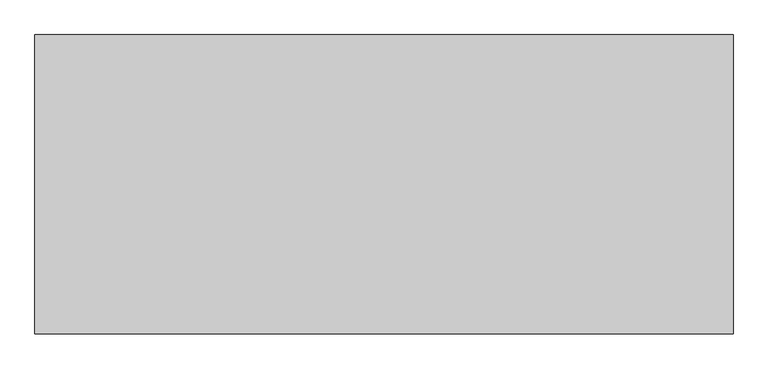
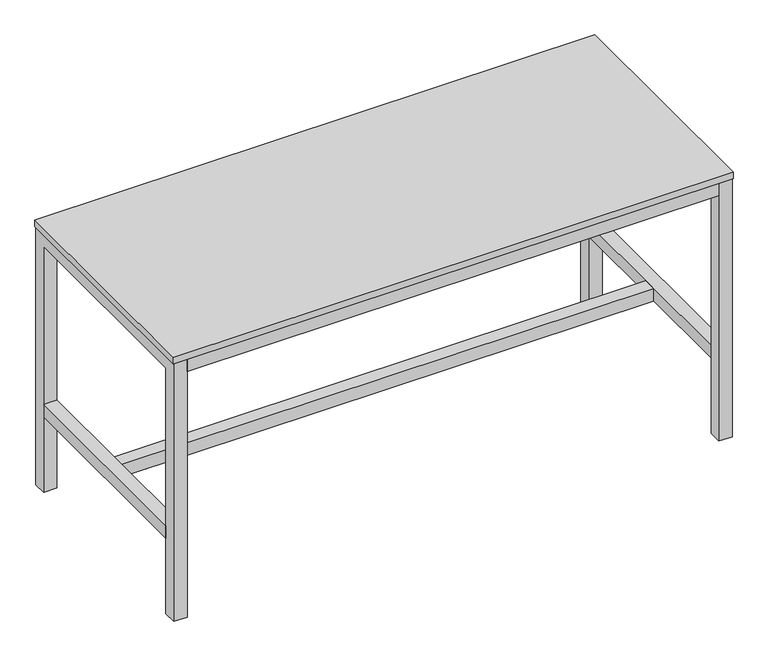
"""IFC4 building model written with IfcOpenShell, lengths in millimetres: furniture geometry, Tables without Castors : Tables without Castors."""

from ifc_helpers import new_model, si_unit, point, frame, frame_2d, origin, place, context, project, spatial, polyline, circle_curve, trimmed, segment, composite_curve, outline, extrude, faceted_brep, source, transform, mapped, element, save
from ifc_brep_helpers import plane_surface, cylinder_surface, advanced_brep


def furniture_dd5b71e2(model_context):
    return source(origin(), model_context, "Body", "SolidModel", [
        extrude(outline(composite_curve([segment(polyline([(-471.2500113, -397.5000094), (-471.2500113, -377.5000129)]), True, "CONTINUOUS"), segment(trimmed(circle_curve(frame_2d((-461.250004, -377.5000129)), 10.0000073), [point((-471.2500113, -377.5000129))], [point((-451.2499967, -377.5000129))], False, "CARTESIAN"), True, "CONTINUOUS"), segment(polyline([(-451.2499967, -377.5000129), (-451.2499967, -397.5000094), (-471.2500113, -397.5000094)]), True, "CONTINUOUS")], self_intersect=False), holes=[composite_curve([segment(trimmed(circle_curve(frame_2d((-461.250004, -377.5000129)), 3.0000178), [point((-461.250004, -380.5000308))], [point((-461.250004, -374.4999951))], True, "CARTESIAN"), True, "CONTINUOUS"), segment(trimmed(circle_curve(frame_2d((-461.250004, -377.5000129)), 3.0000178), [point((-461.250004, -374.4999951))], [point((-461.250004, -380.5000308))], True, "CARTESIAN"), True, "CONTINUOUS")], self_intersect=False)]), frame((0.0, 0.0, 1023.0000078), z_axis=(0.0, 0.0, 1.0), x_axis=(1.0, 0.0, 0.0)), (0.0, 0.0, 1.0), 2.0),
        extrude(outline(composite_curve([segment(polyline([(471.2500113, -397.5000094), (451.2499967, -397.5000094), (451.2499967, -377.5000129)]), True, "CONTINUOUS"), segment(trimmed(circle_curve(frame_2d((461.250004, -377.5000129)), 10.0000073), [point((451.2499967, -377.5000129))], [point((471.2500113, -377.5000129))], False, "CARTESIAN"), True, "CONTINUOUS"), segment(polyline([(471.2500113, -377.5000129), (471.2500113, -397.5000094)]), True, "CONTINUOUS")], self_intersect=False), holes=[composite_curve([segment(trimmed(circle_curve(frame_2d((461.250004, -377.5000129)), 3.0000178), [point((461.250004, -380.5000308))], [point((461.250004, -374.4999951))], True, "CARTESIAN"), True, "CONTINUOUS"), segment(trimmed(circle_curve(frame_2d((461.250004, -377.5000129)), 3.0000178), [point((461.250004, -374.4999951))], [point((461.250004, -380.5000308))], True, "CARTESIAN"), True, "CONTINUOUS")], self_intersect=False)]), frame((0.0, 0.0, 1023.0000078), z_axis=(0.0, 0.0, 1.0), x_axis=(1.0, 0.0, 0.0)), (0.0, 0.0, 1.0), 2.0),
        extrude(outline(composite_curve([segment(polyline([(-10.0000073, -397.5000094), (-10.0000073, -377.5000129)]), True, "CONTINUOUS"), segment(trimmed(circle_curve(frame_2d((0.0, -377.5000129)), 10.0000073), [point((-10.0000073, -377.5000129))], [point((10.0000073, -377.5000129))], False, "CARTESIAN"), True, "CONTINUOUS"), segment(polyline([(10.0000073, -377.5000129), (10.0000073, -397.5000094), (-10.0000073, -397.5000094)]), True, "CONTINUOUS")], self_intersect=False), holes=[composite_curve([segment(trimmed(circle_curve(frame_2d((0.0, -377.5000129)), 3.0000178), [point((0.0, -380.5000308))], [point((0.0, -374.4999951))], True, "CARTESIAN"), True, "CONTINUOUS"), segment(trimmed(circle_curve(frame_2d((0.0, -377.5000129)), 3.0000178), [point((0.0, -374.4999951))], [point((0.0, -380.5000308))], True, "CARTESIAN"), True, "CONTINUOUS")], self_intersect=False)]), frame((0.0, 0.0, 1023.0000078), z_axis=(0.0, 0.0, 1.0), x_axis=(1.0, 0.0, 0.0)), (0.0, 0.0, 1.0), 2.0),
        extrude(outline(composite_curve([segment(polyline([(-932.5000154, -397.5000094), (-932.5000154, -377.5000129)]), True, "CONTINUOUS"), segment(trimmed(circle_curve(frame_2d((-922.500008, -377.5000129)), 10.0000073), [point((-932.5000154, -377.5000129))], [point((-912.5000007, -377.5000129))], False, "CARTESIAN"), True, "CONTINUOUS"), segment(polyline([(-912.5000007, -377.5000129), (-912.5000007, -397.5000094), (-932.5000154, -397.5000094)]), True, "CONTINUOUS")], self_intersect=False), holes=[composite_curve([segment(trimmed(circle_curve(frame_2d((-922.500008, -377.5000129)), 3.0000178), [point((-922.500008, -380.5000308))], [point((-922.500008, -374.4999951))], True, "CARTESIAN"), True, "CONTINUOUS"), segment(trimmed(circle_curve(frame_2d((-922.500008, -377.5000129)), 3.0000178), [point((-922.500008, -374.4999951))], [point((-922.500008, -380.5000308))], True, "CARTESIAN"), True, "CONTINUOUS")], self_intersect=False)]), frame((0.0, 0.0, 1023.0000078), z_axis=(0.0, 0.0, 1.0), x_axis=(1.0, 0.0, 0.0)), (0.0, 0.0, 1.0), 2.0),
        extrude(outline(composite_curve([segment(polyline([(932.5000154, -397.5000094), (912.5000007, -397.5000094), (912.5000007, -377.5000129)]), True, "CONTINUOUS"), segment(trimmed(circle_curve(frame_2d((922.500008, -377.5000129)), 10.0000073), [point((912.5000007, -377.5000129))], [point((932.5000154, -377.5000129))], False, "CARTESIAN"), True, "CONTINUOUS"), segment(polyline([(932.5000154, -377.5000129), (932.5000154, -397.5000094)]), True, "CONTINUOUS")], self_intersect=False), holes=[composite_curve([segment(trimmed(circle_curve(frame_2d((922.500008, -377.5000129)), 3.0000178), [point((922.500008, -380.5000308))], [point((922.500008, -374.4999951))], True, "CARTESIAN"), True, "CONTINUOUS"), segment(trimmed(circle_curve(frame_2d((922.500008, -377.5000129)), 3.0000178), [point((922.500008, -374.4999951))], [point((922.500008, -380.5000308))], True, "CARTESIAN"), True, "CONTINUOUS")], self_intersect=False)]), frame((0.0, 0.0, 1023.0000078), z_axis=(0.0, 0.0, 1.0), x_axis=(1.0, 0.0, 0.0)), (0.0, 0.0, 1.0), 2.0),
        extrude(outline(polyline([(-447.5000115, 975.0000074), (-447.5000115, 1025.0000078), (-397.5000094, 1025.0000078), (-397.5000094, 975.0000074), (-447.5000115, 975.0000074)]), holes=[polyline([(-445.5000115, 977.0000307), (-399.50001, 977.0000307), (-399.50001, 1022.9999846), (-445.5000115, 1022.9999846), (-445.5000115, 977.0000307)])]), frame((-997.500008, 0.0, 0.0), z_axis=(1.0, 0.0, 0.0), x_axis=(0.0, 1.0, 0.0)), (0.0, 0.0, 1.0), 1995.000016),
        extrude(outline(composite_curve([segment(polyline([(997.5000059, -10.0000073), (977.5000094, -10.0000073)]), True, "CONTINUOUS"), segment(trimmed(circle_curve(frame_2d((977.5000094, 0.0)), 10.0000073), [point((977.5000094, -10.0000073))], [point((977.5000094, 10.0000073))], False, "CARTESIAN"), True, "CONTINUOUS"), segment(polyline([(977.5000094, 10.0000073), (997.5000059, 10.0000073), (997.5000059, -10.0000073)]), True, "CONTINUOUS")], self_intersect=False), holes=[composite_curve([segment(trimmed(circle_curve(frame_2d((977.5000094, 0.0)), 3.0000178), [point((980.5000272, 0.0))], [point((974.4999916, 0.0))], True, "CARTESIAN"), True, "CONTINUOUS"), segment(trimmed(circle_curve(frame_2d((977.5000094, 0.0)), 3.0000178), [point((974.4999916, 0.0))], [point((980.5000272, 0.0))], True, "CARTESIAN"), True, "CONTINUOUS")], self_intersect=False)]), frame((0.0, 0.0, 1023.0000078), z_axis=(0.0, 0.0, 1.0), x_axis=(1.0, 0.0, 0.0)), (0.0, 0.0, 1.0), 2.0),
        extrude(outline(composite_curve([segment(polyline([(997.5000059, -332.4999735), (977.5000094, -332.4999735)]), True, "CONTINUOUS"), segment(trimmed(circle_curve(frame_2d((977.5000094, -322.4999661)), 10.0000073), [point((977.5000094, -332.4999735))], [point((977.5000094, -312.4999588))], False, "CARTESIAN"), True, "CONTINUOUS"), segment(polyline([(977.5000094, -312.4999588), (997.5000059, -312.4999588), (997.5000059, -332.4999735)]), True, "CONTINUOUS")], self_intersect=False), holes=[composite_curve([segment(trimmed(circle_curve(frame_2d((977.5000094, -322.4999661)), 3.0000178), [point((980.5000272, -322.4999661))], [point((974.4999916, -322.4999661))], True, "CARTESIAN"), True, "CONTINUOUS"), segment(trimmed(circle_curve(frame_2d((977.5000094, -322.4999661)), 3.0000178), [point((974.4999916, -322.4999661))], [point((980.5000272, -322.4999661))], True, "CARTESIAN"), True, "CONTINUOUS")], self_intersect=False)]), frame((0.0, 0.0, 1023.0000078), z_axis=(0.0, 0.0, 1.0), x_axis=(1.0, 0.0, 0.0)), (0.0, 0.0, 1.0), 2.0),
        extrude(outline(composite_curve([segment(polyline([(997.5000059, 332.4999735), (997.5000059, 312.4999588), (977.5000094, 312.4999588)]), True, "CONTINUOUS"), segment(trimmed(circle_curve(frame_2d((977.5000094, 322.4999661)), 10.0000073), [point((977.5000094, 312.4999588))], [point((977.5000094, 332.4999735))], False, "CARTESIAN"), True, "CONTINUOUS"), segment(polyline([(977.5000094, 332.4999735), (997.5000059, 332.4999735)]), True, "CONTINUOUS")], self_intersect=False), holes=[composite_curve([segment(trimmed(circle_curve(frame_2d((977.5000094, 322.4999661)), 3.0000178), [point((980.5000272, 322.4999661))], [point((974.4999916, 322.4999661))], True, "CARTESIAN"), True, "CONTINUOUS"), segment(trimmed(circle_curve(frame_2d((977.5000094, 322.4999661)), 3.0000178), [point((974.4999916, 322.4999661))], [point((980.5000272, 322.4999661))], True, "CARTESIAN"), True, "CONTINUOUS")], self_intersect=False)]), frame((0.0, 0.0, 1023.0000078), z_axis=(0.0, 0.0, 1.0), x_axis=(1.0, 0.0, 0.0)), (0.0, 0.0, 1.0), 2.0),
        advanced_brep(
        [(1018.5000081, 422.5000023, 5.0000003), (1026.5000058, 422.5000023, 5.0000003), (1026.5000058, 422.5000023, 29.9999993), (1018.5000081, 422.5000023, 29.9999993), (1007.5000073, 422.5000023, 5.0000003), (1037.5000066, 422.5000023, 5.0000003), (1007.5000073, 422.5000023, 0.0), (1037.5000066, 422.5000023, 0.0), (1022.500007, 422.5000023, 0.0), (1022.500007, 422.5000023, 29.9999993)],
        [
            (0, 1, circle_curve(frame((1022.500007, 422.5000023, 5.0000003), z_axis=(0.0, 0.0, 1.0), x_axis=(1.0, 0.0, 0.0)), 3.9999988)),
            (1, 2),
            (2, 3, circle_curve(frame((1022.500007, 422.5000023, 29.9999993), z_axis=(0.0, 0.0, -1.0), x_axis=(1.0, 0.0, 0.0)), 3.9999988)),
            (3, 0),
            (1, 0, circle_curve(frame((1022.500007, 422.5000023, 5.0000003), z_axis=(0.0, 0.0, 1.0), x_axis=(1.0, 0.0, 0.0)), 3.9999988)),
            (3, 2, circle_curve(frame((1022.500007, 422.5000023, 29.9999993), z_axis=(0.0, 0.0, -1.0), x_axis=(1.0, 0.0, 0.0)), 3.9999988)),
            (4, 5, circle_curve(frame((1022.500007, 422.5000023, 5.0000003), z_axis=(0.0, 0.0, 1.0), x_axis=(1.0, 0.0, 0.0)), 14.9999997)),
            (5, 1),
            (0, 4),
            (5, 4, circle_curve(frame((1022.500007, 422.5000023, 5.0000003), z_axis=(0.0, 0.0, 1.0), x_axis=(1.0, 0.0, 0.0)), 14.9999997)),
            (6, 7, circle_curve(frame((1022.500007, 422.5000023, 0.0), z_axis=(0.0, 0.0, 1.0), x_axis=(1.0, 0.0, 0.0)), 14.9999997)),
            (7, 5),
            (4, 6),
            (7, 6, circle_curve(frame((1022.500007, 422.5000023, 0.0), z_axis=(0.0, 0.0, 1.0), x_axis=(1.0, 0.0, 0.0)), 14.9999997)),
            (8, 7),
            (6, 8),
            (2, 9),
            (9, 3),
        ],
        [
            cylinder_surface(frame((1022.500007, 422.5000023, 29.9999993), z_axis=(0.0, 0.0, -1.0), x_axis=(1.0, 0.0, 0.0)), 3.9999988),
            plane_surface(frame((1022.500007, 422.5000023, 5.0000003), z_axis=(0.0, 0.0, 1.0), x_axis=(1.0, 0.0, 0.0))),
            cylinder_surface(frame((1022.500007, 422.5000023, 29.9999993), z_axis=(0.0, 0.0, -1.0), x_axis=(1.0, 0.0, 0.0)), 14.9999997),
            plane_surface(frame((1022.500007, 422.5000023, 0.0), z_axis=(0.0, 0.0, -1.0), x_axis=(1.0, 0.0, 0.0))),
            plane_surface(frame((1022.500007, 422.5000023, 29.9999993), z_axis=(0.0, 0.0, 1.0), x_axis=(1.0, 0.0, 0.0))),
        ],
        [
            (0, [[1, 2, 3, 4]]),
            (0, [[5, -4, 6, -2]]),
            (1, [[7, 8, -1, 9]]),
            (1, [[10, -9, -5, -8]]),
            (2, [[11, 12, -7, 13]]),
            (2, [[14, -13, -10, -12]]),
            (3, [[15, -11, 16]]),
            (3, [[-16, -14, -15]]),
            (4, [[-3, 17, 18]]),
            (4, [[-6, -18, -17]]),
        ],
    ),
        extrude(outline(polyline([(999.5000065, 399.5000263), (999.5000065, 445.4999802), (1045.500008, 445.4999802), (1045.500008, 399.5000263), (999.5000065, 399.5000263)]), holes=[composite_curve([segment(trimmed(circle_curve(frame_2d((1022.500007, 422.5000023)), 5.4999988), [point((1028.0000058, 422.5000023))], [point((1017.0000082, 422.5000023))], True, "CARTESIAN"), True, "CONTINUOUS"), segment(trimmed(circle_curve(frame_2d((1022.500007, 422.5000023)), 5.4999988), [point((1017.0000082, 422.5000023))], [point((1028.0000058, 422.5000023))], True, "CARTESIAN"), True, "CONTINUOUS")], self_intersect=False)]), frame((0.0, 0.0, 10.0000005), z_axis=(0.0, 0.0, 1.0), x_axis=(1.0, 0.0, 0.0)), (0.0, 0.0, 1.0), 1.9999994),
        advanced_brep(
        [(1018.5000081, -422.5000023, 5.0000003), (1018.5000081, -422.5000023, 29.9999993), (1026.5000058, -422.5000023, 29.9999993), (1026.5000058, -422.5000023, 5.0000003), (1007.5000073, -422.5000023, 5.0000003), (1037.5000066, -422.5000023, 5.0000003), (1007.5000073, -422.5000023, 0.0), (1037.5000066, -422.5000023, 0.0), (1022.500007, -422.5000023, 0.0), (1022.500007, -422.5000023, 29.9999993)],
        [
            (0, 1),
            (1, 2, circle_curve(frame((1022.500007, -422.5000023, 29.9999993), z_axis=(0.0, 0.0, -1.0), x_axis=(1.0, 0.0, 0.0)), 3.9999988)),
            (2, 3),
            (3, 0, circle_curve(frame((1022.500007, -422.5000023, 5.0000003), z_axis=(0.0, 0.0, 1.0), x_axis=(1.0, 0.0, 0.0)), 3.9999988)),
            (2, 1, circle_curve(frame((1022.500007, -422.5000023, 29.9999993), z_axis=(0.0, 0.0, -1.0), x_axis=(1.0, 0.0, 0.0)), 3.9999988)),
            (0, 3, circle_curve(frame((1022.500007, -422.5000023, 5.0000003), z_axis=(0.0, 0.0, 1.0), x_axis=(1.0, 0.0, 0.0)), 3.9999988)),
            (4, 0),
            (3, 5),
            (5, 4, circle_curve(frame((1022.500007, -422.5000023, 5.0000003), z_axis=(0.0, 0.0, 1.0), x_axis=(1.0, 0.0, 0.0)), 14.9999997)),
            (4, 5, circle_curve(frame((1022.500007, -422.5000023, 5.0000003), z_axis=(0.0, 0.0, 1.0), x_axis=(1.0, 0.0, 0.0)), 14.9999997)),
            (6, 4),
            (5, 7),
            (7, 6, circle_curve(frame((1022.500007, -422.5000023, 0.0), z_axis=(0.0, 0.0, 1.0), x_axis=(1.0, 0.0, 0.0)), 14.9999997)),
            (6, 7, circle_curve(frame((1022.500007, -422.5000023, 0.0), z_axis=(0.0, 0.0, 1.0), x_axis=(1.0, 0.0, 0.0)), 14.9999997)),
            (8, 6),
            (7, 8),
            (1, 9),
            (9, 2),
        ],
        [
            cylinder_surface(frame((1022.500007, -422.5000023, 29.9999993), z_axis=(0.0, 0.0, -1.0), x_axis=(1.0, 0.0, 0.0)), 3.9999988),
            plane_surface(frame((1022.500007, -422.5000023, 5.0000003), z_axis=(0.0, 0.0, 1.0), x_axis=(1.0, 0.0, 0.0))),
            cylinder_surface(frame((1022.500007, -422.5000023, 29.9999993), z_axis=(0.0, 0.0, -1.0), x_axis=(1.0, 0.0, 0.0)), 14.9999997),
            plane_surface(frame((1022.500007, -422.5000023, 0.0), z_axis=(0.0, 0.0, -1.0), x_axis=(1.0, 0.0, 0.0))),
            plane_surface(frame((1022.500007, -422.5000023, 29.9999993), z_axis=(0.0, 0.0, 1.0), x_axis=(1.0, 0.0, 0.0))),
        ],
        [
            (0, [[1, 2, 3, 4]]),
            (0, [[-3, 5, -1, 6]]),
            (1, [[7, -4, 8, 9]]),
            (1, [[-8, -6, -7, 10]]),
            (2, [[11, -9, 12, 13]]),
            (2, [[-12, -10, -11, 14]]),
            (3, [[15, -13, 16]]),
            (3, [[-16, -14, -15]]),
            (4, [[17, 18, -2]]),
            (4, [[-18, -17, -5]]),
        ],
    ),
        extrude(outline(polyline([(999.5000065, -399.5000263), (1045.500008, -399.5000263), (1045.500008, -445.4999802), (999.5000065, -445.4999802), (999.5000065, -399.5000263)]), holes=[composite_curve([segment(trimmed(circle_curve(frame_2d((1022.500007, -422.5000023)), 5.4999988), [point((1028.0000058, -422.5000023))], [point((1017.0000082, -422.5000023))], True, "CARTESIAN"), True, "CONTINUOUS"), segment(trimmed(circle_curve(frame_2d((1022.500007, -422.5000023)), 5.4999988), [point((1017.0000082, -422.5000023))], [point((1028.0000058, -422.5000023))], True, "CARTESIAN"), True, "CONTINUOUS")], self_intersect=False)]), frame((0.0, 0.0, 10.0000005), z_axis=(0.0, 0.0, 1.0), x_axis=(1.0, 0.0, 0.0)), (0.0, 0.0, 1.0), 1.9999994),
        faceted_brep([(1047.500008, 397.5000031, 0.0), (997.5000059, 397.5000031, 0.0), (997.5000059, 447.5000034, 0.0), (1047.500008, 447.5000034, 0.0), (1045.500008, 399.5000263, 0.0), (1045.500008, 445.4999802, 0.0), (999.5000065, 445.4999802, 0.0), (999.5000065, 399.5000263, 0.0), (1047.500008, 447.5000034, 1025.0000078), (1047.500008, -447.5000034, 1025.0000078), (1047.500008, -447.5000034, 0.0), (1047.500008, -397.5000031, 0.0), (1047.500008, -397.5000031, 975.0000074), (1047.500008, 397.5000031, 975.0000074), (997.5000059, 447.5000034, 1025.0000078), (997.5000059, 397.5000031, 975.0000074), (997.5000059, -397.5000031, 975.0000074), (997.5000059, -397.5000031, 0.0), (997.5000059, -447.5000034, 0.0), (997.5000059, -447.5000034, 1025.0000078), (999.5000065, 399.5000263, 977.0000307), (1045.500008, 399.5000263, 977.0000307), (999.5000065, 445.4999802, 1022.9999846), (999.5000065, -445.4999802, 1022.9999846), (999.5000065, -445.4999802, 0.0), (999.5000065, -399.5000263, 0.0), (999.5000065, -399.5000263, 977.0000307), (1045.500008, 445.4999802, 1022.9999846), (1045.500008, -399.5000263, 977.0000307), (1045.500008, -399.5000263, 0.0), (1045.500008, -445.4999802, 0.0), (1045.500008, -445.4999802, 1022.9999846)], [[[0, 1, 2, 3], [4, 5, 6, 7]], [[3, 8, 9, 10, 11, 12, 13, 0]], [[2, 14, 8, 3]], [[1, 15, 16, 17, 18, 19, 14, 2]], [[0, 13, 15, 1]], [[7, 20, 21, 4]], [[6, 22, 23, 24, 25, 26, 20, 7]], [[5, 27, 22, 6]], [[4, 21, 28, 29, 30, 31, 27, 5]], [[14, 19, 9, 8]], [[13, 12, 16, 15]], [[20, 26, 28, 21]], [[27, 31, 23, 22]], [[11, 10, 18, 17], [29, 25, 24, 30]], [[19, 18, 10, 9]], [[12, 11, 17, 16]], [[26, 25, 29, 28]], [[31, 30, 24, 23]]]),
        extrude(outline(composite_curve([segment(polyline([(-471.2500113, 397.5000094), (-451.2499967, 397.5000094), (-451.2499967, 377.5000129)]), True, "CONTINUOUS"), segment(trimmed(circle_curve(frame_2d((-461.250004, 377.5000129)), 10.0000073), [point((-451.2499967, 377.5000129))], [point((-471.2500113, 377.5000129))], False, "CARTESIAN"), True, "CONTINUOUS"), segment(polyline([(-471.2500113, 377.5000129), (-471.2500113, 397.5000094)]), True, "CONTINUOUS")], self_intersect=False), holes=[composite_curve([segment(trimmed(circle_curve(frame_2d((-461.250004, 377.5000129)), 3.0000178), [point((-461.250004, 380.5000308))], [point((-461.250004, 374.4999951))], True, "CARTESIAN"), True, "CONTINUOUS"), segment(trimmed(circle_curve(frame_2d((-461.250004, 377.5000129)), 3.0000178), [point((-461.250004, 374.4999951))], [point((-461.250004, 380.5000308))], True, "CARTESIAN"), True, "CONTINUOUS")], self_intersect=False)]), frame((0.0, 0.0, 1023.0000078), z_axis=(0.0, 0.0, 1.0), x_axis=(1.0, 0.0, 0.0)), (0.0, 0.0, 1.0), 2.0),
        extrude(outline(composite_curve([segment(polyline([(471.2500113, 397.5000094), (471.2500113, 377.5000129)]), True, "CONTINUOUS"), segment(trimmed(circle_curve(frame_2d((461.250004, 377.5000129)), 10.0000073), [point((471.2500113, 377.5000129))], [point((451.2499967, 377.5000129))], False, "CARTESIAN"), True, "CONTINUOUS"), segment(polyline([(451.2499967, 377.5000129), (451.2499967, 397.5000094), (471.2500113, 397.5000094)]), True, "CONTINUOUS")], self_intersect=False), holes=[composite_curve([segment(trimmed(circle_curve(frame_2d((461.250004, 377.5000129)), 3.0000178), [point((461.250004, 380.5000308))], [point((461.250004, 374.4999951))], True, "CARTESIAN"), True, "CONTINUOUS"), segment(trimmed(circle_curve(frame_2d((461.250004, 377.5000129)), 3.0000178), [point((461.250004, 374.4999951))], [point((461.250004, 380.5000308))], True, "CARTESIAN"), True, "CONTINUOUS")], self_intersect=False)]), frame((0.0, 0.0, 1023.0000078), z_axis=(0.0, 0.0, 1.0), x_axis=(1.0, 0.0, 0.0)), (0.0, 0.0, 1.0), 2.0),
        extrude(outline(composite_curve([segment(polyline([(-10.0000073, 397.5000094), (10.0000073, 397.5000094), (10.0000073, 377.5000129)]), True, "CONTINUOUS"), segment(trimmed(circle_curve(frame_2d((0.0, 377.5000129)), 10.0000073), [point((10.0000073, 377.5000129))], [point((-10.0000073, 377.5000129))], False, "CARTESIAN"), True, "CONTINUOUS"), segment(polyline([(-10.0000073, 377.5000129), (-10.0000073, 397.5000094)]), True, "CONTINUOUS")], self_intersect=False), holes=[composite_curve([segment(trimmed(circle_curve(frame_2d((0.0, 377.5000129)), 3.0000178), [point((0.0, 380.5000308))], [point((0.0, 374.4999951))], True, "CARTESIAN"), True, "CONTINUOUS"), segment(trimmed(circle_curve(frame_2d((0.0, 377.5000129)), 3.0000178), [point((0.0, 374.4999951))], [point((0.0, 380.5000308))], True, "CARTESIAN"), True, "CONTINUOUS")], self_intersect=False)]), frame((0.0, 0.0, 1023.0000078), z_axis=(0.0, 0.0, 1.0), x_axis=(1.0, 0.0, 0.0)), (0.0, 0.0, 1.0), 2.0),
        extrude(outline(composite_curve([segment(polyline([(-932.5000154, 397.5000094), (-912.5000007, 397.5000094), (-912.5000007, 377.5000129)]), True, "CONTINUOUS"), segment(trimmed(circle_curve(frame_2d((-922.500008, 377.5000129)), 10.0000073), [point((-912.5000007, 377.5000129))], [point((-932.5000154, 377.5000129))], False, "CARTESIAN"), True, "CONTINUOUS"), segment(polyline([(-932.5000154, 377.5000129), (-932.5000154, 397.5000094)]), True, "CONTINUOUS")], self_intersect=False), holes=[composite_curve([segment(trimmed(circle_curve(frame_2d((-922.500008, 377.5000129)), 3.0000178), [point((-922.500008, 380.5000308))], [point((-922.500008, 374.4999951))], True, "CARTESIAN"), True, "CONTINUOUS"), segment(trimmed(circle_curve(frame_2d((-922.500008, 377.5000129)), 3.0000178), [point((-922.500008, 374.4999951))], [point((-922.500008, 380.5000308))], True, "CARTESIAN"), True, "CONTINUOUS")], self_intersect=False)]), frame((0.0, 0.0, 1023.0000078), z_axis=(0.0, 0.0, 1.0), x_axis=(1.0, 0.0, 0.0)), (0.0, 0.0, 1.0), 2.0),
        extrude(outline(composite_curve([segment(polyline([(932.5000154, 397.5000094), (932.5000154, 377.5000129)]), True, "CONTINUOUS"), segment(trimmed(circle_curve(frame_2d((922.500008, 377.5000129)), 10.0000073), [point((932.5000154, 377.5000129))], [point((912.5000007, 377.5000129))], False, "CARTESIAN"), True, "CONTINUOUS"), segment(polyline([(912.5000007, 377.5000129), (912.5000007, 397.5000094), (932.5000154, 397.5000094)]), True, "CONTINUOUS")], self_intersect=False), holes=[composite_curve([segment(trimmed(circle_curve(frame_2d((922.500008, 377.5000129)), 3.0000178), [point((922.500008, 380.5000308))], [point((922.500008, 374.4999951))], True, "CARTESIAN"), True, "CONTINUOUS"), segment(trimmed(circle_curve(frame_2d((922.500008, 377.5000129)), 3.0000178), [point((922.500008, 374.4999951))], [point((922.500008, 380.5000308))], True, "CARTESIAN"), True, "CONTINUOUS")], self_intersect=False)]), frame((0.0, 0.0, 1023.0000078), z_axis=(0.0, 0.0, 1.0), x_axis=(1.0, 0.0, 0.0)), (0.0, 0.0, 1.0), 2.0),
        extrude(outline(polyline([(447.5000115, 975.0000074), (397.5000094, 975.0000074), (397.5000094, 1025.0000078), (447.5000115, 1025.0000078), (447.5000115, 975.0000074)]), holes=[polyline([(445.5000115, 977.0000307), (445.5000115, 1022.9999846), (399.50001, 1022.9999846), (399.50001, 977.0000307), (445.5000115, 977.0000307)])]), frame((-997.500008, 0.0, 0.0), z_axis=(1.0, 0.0, 0.0), x_axis=(0.0, 1.0, 0.0)), (0.0, 0.0, 1.0), 1995.000016),
        extrude(outline(composite_curve([segment(polyline([(-997.5000059, -10.0000073), (-997.5000059, 10.0000073), (-977.5000094, 10.0000073)]), True, "CONTINUOUS"), segment(trimmed(circle_curve(frame_2d((-977.5000094, 0.0)), 10.0000073), [point((-977.5000094, 10.0000073))], [point((-977.5000094, -10.0000073))], False, "CARTESIAN"), True, "CONTINUOUS"), segment(polyline([(-977.5000094, -10.0000073), (-997.5000059, -10.0000073)]), True, "CONTINUOUS")], self_intersect=False), holes=[composite_curve([segment(trimmed(circle_curve(frame_2d((-977.5000094, 0.0)), 3.0000178), [point((-980.5000272, 0.0))], [point((-974.4999916, 0.0))], True, "CARTESIAN"), True, "CONTINUOUS"), segment(trimmed(circle_curve(frame_2d((-977.5000094, 0.0)), 3.0000178), [point((-974.4999916, 0.0))], [point((-980.5000272, 0.0))], True, "CARTESIAN"), True, "CONTINUOUS")], self_intersect=False)]), frame((0.0, 0.0, 1023.0000078), z_axis=(0.0, 0.0, 1.0), x_axis=(1.0, 0.0, 0.0)), (0.0, 0.0, 1.0), 2.0),
        extrude(outline(composite_curve([segment(polyline([(-997.5000059, -332.4999735), (-997.5000059, -312.4999588), (-977.5000094, -312.4999588)]), True, "CONTINUOUS"), segment(trimmed(circle_curve(frame_2d((-977.5000094, -322.4999661)), 10.0000073), [point((-977.5000094, -312.4999588))], [point((-977.5000094, -332.4999735))], False, "CARTESIAN"), True, "CONTINUOUS"), segment(polyline([(-977.5000094, -332.4999735), (-997.5000059, -332.4999735)]), True, "CONTINUOUS")], self_intersect=False), holes=[composite_curve([segment(trimmed(circle_curve(frame_2d((-977.5000094, -322.4999661)), 3.0000178), [point((-980.5000272, -322.4999661))], [point((-974.4999916, -322.4999661))], True, "CARTESIAN"), True, "CONTINUOUS"), segment(trimmed(circle_curve(frame_2d((-977.5000094, -322.4999661)), 3.0000178), [point((-974.4999916, -322.4999661))], [point((-980.5000272, -322.4999661))], True, "CARTESIAN"), True, "CONTINUOUS")], self_intersect=False)]), frame((0.0, 0.0, 1023.0000078), z_axis=(0.0, 0.0, 1.0), x_axis=(1.0, 0.0, 0.0)), (0.0, 0.0, 1.0), 2.0),
        extrude(outline(composite_curve([segment(polyline([(-997.5000059, 332.4999735), (-977.5000094, 332.4999735)]), True, "CONTINUOUS"), segment(trimmed(circle_curve(frame_2d((-977.5000094, 322.4999661)), 10.0000073), [point((-977.5000094, 332.4999735))], [point((-977.5000094, 312.4999588))], False, "CARTESIAN"), True, "CONTINUOUS"), segment(polyline([(-977.5000094, 312.4999588), (-997.5000059, 312.4999588), (-997.5000059, 332.4999735)]), True, "CONTINUOUS")], self_intersect=False), holes=[composite_curve([segment(trimmed(circle_curve(frame_2d((-977.5000094, 322.4999661)), 3.0000178), [point((-980.5000272, 322.4999661))], [point((-974.4999916, 322.4999661))], True, "CARTESIAN"), True, "CONTINUOUS"), segment(trimmed(circle_curve(frame_2d((-977.5000094, 322.4999661)), 3.0000178), [point((-974.4999916, 322.4999661))], [point((-980.5000272, 322.4999661))], True, "CARTESIAN"), True, "CONTINUOUS")], self_intersect=False)]), frame((0.0, 0.0, 1023.0000078), z_axis=(0.0, 0.0, 1.0), x_axis=(1.0, 0.0, 0.0)), (0.0, 0.0, 1.0), 2.0),
        advanced_brep(
        [(-1018.5000081, 422.5000023, 5.0000003), (-1018.5000081, 422.5000023, 29.9999993), (-1026.5000058, 422.5000023, 29.9999993), (-1026.5000058, 422.5000023, 5.0000003), (-1007.5000073, 422.5000023, 5.0000003), (-1037.5000066, 422.5000023, 5.0000003), (-1007.5000073, 422.5000023, 0.0), (-1037.5000066, 422.5000023, 0.0), (-1022.500007, 422.5000023, 0.0), (-1022.500007, 422.5000023, 29.9999993)],
        [
            (0, 1),
            (1, 2, circle_curve(frame((-1022.500007, 422.5000023, 29.9999993), z_axis=(0.0, 0.0, -1.0), x_axis=(-1.0, 0.0, 0.0)), 3.9999988)),
            (2, 3),
            (3, 0, circle_curve(frame((-1022.500007, 422.5000023, 5.0000003), z_axis=(0.0, 0.0, 1.0), x_axis=(-1.0, 0.0, 0.0)), 3.9999988)),
            (2, 1, circle_curve(frame((-1022.500007, 422.5000023, 29.9999993), z_axis=(0.0, 0.0, -1.0), x_axis=(-1.0, 0.0, 0.0)), 3.9999988)),
            (0, 3, circle_curve(frame((-1022.500007, 422.5000023, 5.0000003), z_axis=(0.0, 0.0, 1.0), x_axis=(-1.0, 0.0, 0.0)), 3.9999988)),
            (4, 0),
            (3, 5),
            (5, 4, circle_curve(frame((-1022.500007, 422.5000023, 5.0000003), z_axis=(0.0, 0.0, 1.0), x_axis=(-1.0, 0.0, 0.0)), 14.9999997)),
            (4, 5, circle_curve(frame((-1022.500007, 422.5000023, 5.0000003), z_axis=(0.0, 0.0, 1.0), x_axis=(-1.0, 0.0, 0.0)), 14.9999997)),
            (6, 4),
            (5, 7),
            (7, 6, circle_curve(frame((-1022.500007, 422.5000023, 0.0), z_axis=(0.0, 0.0, 1.0), x_axis=(-1.0, 0.0, 0.0)), 14.9999997)),
            (6, 7, circle_curve(frame((-1022.500007, 422.5000023, 0.0), z_axis=(0.0, 0.0, 1.0), x_axis=(-1.0, 0.0, 0.0)), 14.9999997)),
            (8, 6),
            (7, 8),
            (1, 9),
            (9, 2),
        ],
        [
            cylinder_surface(frame((-1022.500007, 422.5000023, 29.9999993), z_axis=(0.0, 0.0, -1.0), x_axis=(-1.0, 0.0, 0.0)), 3.9999988),
            plane_surface(frame((-1022.500007, 422.5000023, 5.0000003), z_axis=(0.0, 0.0, 1.0), x_axis=(-1.0, 0.0, 0.0))),
            cylinder_surface(frame((-1022.500007, 422.5000023, 29.9999993), z_axis=(0.0, 0.0, -1.0), x_axis=(-1.0, 0.0, 0.0)), 14.9999997),
            plane_surface(frame((-1022.500007, 422.5000023, 0.0), z_axis=(0.0, 0.0, -1.0), x_axis=(-1.0, 0.0, 0.0))),
            plane_surface(frame((-1022.500007, 422.5000023, 29.9999993), z_axis=(0.0, 0.0, 1.0), x_axis=(-1.0, 0.0, 0.0))),
        ],
        [
            (0, [[1, 2, 3, 4]]),
            (0, [[-3, 5, -1, 6]]),
            (1, [[7, -4, 8, 9]]),
            (1, [[-8, -6, -7, 10]]),
            (2, [[11, -9, 12, 13]]),
            (2, [[-12, -10, -11, 14]]),
            (3, [[15, -13, 16]]),
            (3, [[-16, -14, -15]]),
            (4, [[17, 18, -2]]),
            (4, [[-18, -17, -5]]),
        ],
    ),
        extrude(outline(polyline([(-999.5000065, 399.5000263), (-1045.500008, 399.5000263), (-1045.500008, 445.4999802), (-999.5000065, 445.4999802), (-999.5000065, 399.5000263)]), holes=[composite_curve([segment(trimmed(circle_curve(frame_2d((-1022.500007, 422.5000023)), 5.4999988), [point((-1028.0000058, 422.5000023))], [point((-1017.0000082, 422.5000023))], True, "CARTESIAN"), True, "CONTINUOUS"), segment(trimmed(circle_curve(frame_2d((-1022.500007, 422.5000023)), 5.4999988), [point((-1017.0000082, 422.5000023))], [point((-1028.0000058, 422.5000023))], True, "CARTESIAN"), True, "CONTINUOUS")], self_intersect=False)]), frame((0.0, 0.0, 10.0000005), z_axis=(0.0, 0.0, 1.0), x_axis=(1.0, 0.0, 0.0)), (0.0, 0.0, 1.0), 1.9999994),
        advanced_brep(
        [(-1018.5000081, -422.5000023, 5.0000003), (-1026.5000058, -422.5000023, 5.0000003), (-1026.5000058, -422.5000023, 29.9999993), (-1018.5000081, -422.5000023, 29.9999993), (-1007.5000073, -422.5000023, 5.0000003), (-1037.5000066, -422.5000023, 5.0000003), (-1007.5000073, -422.5000023, 0.0), (-1037.5000066, -422.5000023, 0.0), (-1022.500007, -422.5000023, 0.0), (-1022.500007, -422.5000023, 29.9999993)],
        [
            (0, 1, circle_curve(frame((-1022.500007, -422.5000023, 5.0000003), z_axis=(0.0, 0.0, 1.0), x_axis=(-1.0, 0.0, 0.0)), 3.9999988)),
            (1, 2),
            (2, 3, circle_curve(frame((-1022.500007, -422.5000023, 29.9999993), z_axis=(0.0, 0.0, -1.0), x_axis=(-1.0, 0.0, 0.0)), 3.9999988)),
            (3, 0),
            (1, 0, circle_curve(frame((-1022.500007, -422.5000023, 5.0000003), z_axis=(0.0, 0.0, 1.0), x_axis=(-1.0, 0.0, 0.0)), 3.9999988)),
            (3, 2, circle_curve(frame((-1022.500007, -422.5000023, 29.9999993), z_axis=(0.0, 0.0, -1.0), x_axis=(-1.0, 0.0, 0.0)), 3.9999988)),
            (4, 5, circle_curve(frame((-1022.500007, -422.5000023, 5.0000003), z_axis=(0.0, 0.0, 1.0), x_axis=(-1.0, 0.0, 0.0)), 14.9999997)),
            (5, 1),
            (0, 4),
            (5, 4, circle_curve(frame((-1022.500007, -422.5000023, 5.0000003), z_axis=(0.0, 0.0, 1.0), x_axis=(-1.0, 0.0, 0.0)), 14.9999997)),
            (6, 7, circle_curve(frame((-1022.500007, -422.5000023, 0.0), z_axis=(0.0, 0.0, 1.0), x_axis=(-1.0, 0.0, 0.0)), 14.9999997)),
            (7, 5),
            (4, 6),
            (7, 6, circle_curve(frame((-1022.500007, -422.5000023, 0.0), z_axis=(0.0, 0.0, 1.0), x_axis=(-1.0, 0.0, 0.0)), 14.9999997)),
            (8, 7),
            (6, 8),
            (2, 9),
            (9, 3),
        ],
        [
            cylinder_surface(frame((-1022.500007, -422.5000023, 29.9999993), z_axis=(0.0, 0.0, -1.0), x_axis=(-1.0, 0.0, 0.0)), 3.9999988),
            plane_surface(frame((-1022.500007, -422.5000023, 5.0000003), z_axis=(0.0, 0.0, 1.0), x_axis=(-1.0, 0.0, 0.0))),
            cylinder_surface(frame((-1022.500007, -422.5000023, 29.9999993), z_axis=(0.0, 0.0, -1.0), x_axis=(-1.0, 0.0, 0.0)), 14.9999997),
            plane_surface(frame((-1022.500007, -422.5000023, 0.0), z_axis=(0.0, 0.0, -1.0), x_axis=(-1.0, 0.0, 0.0))),
            plane_surface(frame((-1022.500007, -422.5000023, 29.9999993), z_axis=(0.0, 0.0, 1.0), x_axis=(-1.0, 0.0, 0.0))),
        ],
        [
            (0, [[1, 2, 3, 4]]),
            (0, [[5, -4, 6, -2]]),
            (1, [[7, 8, -1, 9]]),
            (1, [[10, -9, -5, -8]]),
            (2, [[11, 12, -7, 13]]),
            (2, [[14, -13, -10, -12]]),
            (3, [[15, -11, 16]]),
            (3, [[-16, -14, -15]]),
            (4, [[-3, 17, 18]]),
            (4, [[-6, -18, -17]]),
        ],
    ),
        extrude(outline(polyline([(-999.5000065, -399.5000263), (-999.5000065, -445.4999802), (-1045.500008, -445.4999802), (-1045.500008, -399.5000263), (-999.5000065, -399.5000263)]), holes=[composite_curve([segment(trimmed(circle_curve(frame_2d((-1022.500007, -422.5000023)), 5.4999988), [point((-1028.0000058, -422.5000023))], [point((-1017.0000082, -422.5000023))], True, "CARTESIAN"), True, "CONTINUOUS"), segment(trimmed(circle_curve(frame_2d((-1022.500007, -422.5000023)), 5.4999988), [point((-1017.0000082, -422.5000023))], [point((-1028.0000058, -422.5000023))], True, "CARTESIAN"), True, "CONTINUOUS")], self_intersect=False)]), frame((0.0, 0.0, 10.0000005), z_axis=(0.0, 0.0, 1.0), x_axis=(1.0, 0.0, 0.0)), (0.0, 0.0, 1.0), 1.9999994),
        faceted_brep([(-1047.500008, 397.5000031, 0.0), (-1047.500008, 447.5000034, 0.0), (-997.5000059, 447.5000034, 0.0), (-997.5000059, 397.5000031, 0.0), (-1045.500008, 399.5000263, 0.0), (-999.5000065, 399.5000263, 0.0), (-999.5000065, 445.4999802, 0.0), (-1045.500008, 445.4999802, 0.0), (-1047.500008, 397.5000031, 975.0000074), (-1047.500008, -397.5000031, 975.0000074), (-1047.500008, -397.5000031, 0.0), (-1047.500008, -447.5000034, 0.0), (-1047.500008, -447.5000034, 1025.0000078), (-1047.500008, 447.5000034, 1025.0000078), (-997.5000059, 447.5000034, 1025.0000078), (-997.5000059, -447.5000034, 1025.0000078), (-997.5000059, -447.5000034, 0.0), (-997.5000059, -397.5000031, 0.0), (-997.5000059, -397.5000031, 975.0000074), (-997.5000059, 397.5000031, 975.0000074), (-1045.500008, 399.5000263, 977.0000307), (-999.5000065, 399.5000263, 977.0000307), (-999.5000065, -399.5000263, 977.0000307), (-999.5000065, -399.5000263, 0.0), (-999.5000065, -445.4999802, 0.0), (-999.5000065, -445.4999802, 1022.9999846), (-999.5000065, 445.4999802, 1022.9999846), (-1045.500008, 445.4999802, 1022.9999846), (-1045.500008, -445.4999802, 1022.9999846), (-1045.500008, -445.4999802, 0.0), (-1045.500008, -399.5000263, 0.0), (-1045.500008, -399.5000263, 977.0000307)], [[[0, 1, 2, 3], [4, 5, 6, 7]], [[1, 0, 8, 9, 10, 11, 12, 13]], [[2, 1, 13, 14]], [[3, 2, 14, 15, 16, 17, 18, 19]], [[0, 3, 19, 8]], [[5, 4, 20, 21]], [[6, 5, 21, 22, 23, 24, 25, 26]], [[7, 6, 26, 27]], [[4, 7, 27, 28, 29, 30, 31, 20]], [[14, 13, 12, 15]], [[8, 19, 18, 9]], [[21, 20, 31, 22]], [[27, 26, 25, 28]], [[10, 17, 16, 11], [30, 29, 24, 23]], [[15, 12, 11, 16]], [[9, 18, 17, 10]], [[22, 31, 30, 23]], [[28, 25, 24, 29]]]),
        extrude(outline(composite_curve([segment(polyline([(902.5000141, 20.0000147), (1032.5000147, 20.0000147)]), True, "CONTINUOUS"), segment(trimmed(circle_curve(frame_2d((1032.5000147, 15.0000147)), 5.0), [point((1032.5000147, 20.0000147))], [point((1037.5000147, 15.0000147))], False, "CARTESIAN"), True, "CONTINUOUS"), segment(polyline([(1037.5000147, 15.0000147), (1037.5000147, -15.0000147)]), True, "CONTINUOUS"), segment(trimmed(circle_curve(frame_2d((1032.5000147, -15.0000147)), 5.0), [point((1037.5000147, -15.0000147))], [point((1032.5000147, -20.0000147))], False, "CARTESIAN"), True, "CONTINUOUS"), segment(polyline([(1032.5000147, -20.0000147), (902.5000141, -20.0000147)]), True, "CONTINUOUS"), segment(trimmed(circle_curve(frame_2d((902.5000141, -15.0000147)), 5.0), [point((902.5000141, -20.0000147))], [point((897.5000141, -15.0000147))], False, "CARTESIAN"), True, "CONTINUOUS"), segment(polyline([(897.5000141, -15.0000147), (897.5000141, 15.0000147)]), True, "CONTINUOUS"), segment(trimmed(circle_curve(frame_2d((902.5000141, 15.0000147)), 5.0), [point((897.5000141, 15.0000147))], [point((902.5000141, 20.0000147))], False, "CARTESIAN"), True, "CONTINUOUS")], self_intersect=False)), frame((0.0, 0.0, 295.9999921), z_axis=(0.0, 0.0, 1.0), x_axis=(1.0, 0.0, 0.0)), (0.0, 0.0, 1.0), 4.0000102),
        extrude(outline(polyline([(350.0000027, 1047.500008), (350.0000027, 997.5000059), (300.0000023, 997.5000059), (300.0000023, 1047.500008), (350.0000027, 1047.500008)]), holes=[polyline([(348.0000027, 1045.500008), (302.0000023, 1045.500008), (302.0000023, 999.5000059), (348.0000027, 999.5000059), (348.0000027, 1045.500008)])]), frame((0.0, -397.5000031, 0.0), z_axis=(0.0, 1.0, 0.0), x_axis=(0.0, 0.0, 1.0)), (0.0, 0.0, 1.0), 795.0000061),
        extrude(outline(polyline([(350.0000027, -1047.500008), (300.0000023, -1047.500008), (300.0000023, -997.5000059), (350.0000027, -997.5000059), (350.0000027, -1047.500008)]), holes=[polyline([(302.0000023, -999.5000059), (302.0000023, -1045.500008), (348.0000027, -1045.500008), (348.0000027, -999.5000059), (302.0000023, -999.5000059)])]), frame((0.0, -397.5000031, 0.0), z_axis=(0.0, 1.0, 0.0), x_axis=(0.0, 0.0, 1.0)), (0.0, 0.0, 1.0), 795.0000061),
        extrude(outline(polyline([(-25.0000002, 350.0000027), (25.0000002, 350.0000027), (25.0000002, 300.0000023), (-25.0000002, 300.0000023), (-25.0000002, 350.0000027)]), holes=[polyline([(-23.0000133, 348.0000157), (-23.0000133, 302.0000074), (23.0000133, 302.0000074), (23.0000133, 348.0000157), (-23.0000133, 348.0000157)])]), frame((-997.5000059, 0.0, 0.0), z_axis=(1.0, 0.0, 0.0), x_axis=(0.0, 1.0, 0.0)), (0.0, 0.0, 1.0), 1995.0000119),
        extrude(outline(polyline([(-1050.000008, 450.0000034), (1050.000008, 450.0000034), (1050.000008, -450.0000034), (-1050.000008, -450.0000034), (-1050.000008, 450.0000034)])), frame((0.0, 0.0, 1025.0000078), z_axis=(0.0, 0.0, 1.0), x_axis=(1.0, 0.0, 0.0)), (0.0, 0.0, 1.0), 25.0000002),
        extrude(outline(composite_curve([segment(trimmed(circle_curve(frame_2d((-905.0000069, 15.0000147)), 5.0), [point((-905.0000069, 20.0000147))], [point((-900.0000069, 15.0000147))], False, "CARTESIAN"), True, "CONTINUOUS"), segment(polyline([(-900.0000069, 15.0000147), (-900.0000069, -15.0000147)]), True, "CONTINUOUS"), segment(trimmed(circle_curve(frame_2d((-905.0000069, -15.0000147)), 5.0), [point((-900.0000069, -15.0000147))], [point((-905.0000069, -20.0000147))], False, "CARTESIAN"), True, "CONTINUOUS"), segment(polyline([(-905.0000069, -20.0000147), (-1035.0000075, -20.0000147)]), True, "CONTINUOUS"), segment(trimmed(circle_curve(frame_2d((-1035.0000075, -15.0000147)), 5.0), [point((-1035.0000075, -20.0000147))], [point((-1040.0000075, -15.0000147))], False, "CARTESIAN"), True, "CONTINUOUS"), segment(polyline([(-1040.0000075, -15.0000147), (-1040.0000075, 15.0000147)]), True, "CONTINUOUS"), segment(trimmed(circle_curve(frame_2d((-1035.0000075, 15.0000147)), 5.0), [point((-1040.0000075, 15.0000147))], [point((-1035.0000075, 20.0000147))], False, "CARTESIAN"), True, "CONTINUOUS"), segment(polyline([(-1035.0000075, 20.0000147), (-905.0000069, 20.0000147)]), True, "CONTINUOUS")], self_intersect=False)), frame((0.0, 0.0, 295.9999921), z_axis=(0.0, 0.0, 1.0), x_axis=(1.0, 0.0, 0.0)), (0.0, 0.0, 1.0), 4.0000102),
    ])


if __name__ == "__main__":
    model = new_model("IFC4")
    model_context = context("Model", 3, world=origin())
    ifc_project = project(units=[si_unit("LENGTHUNIT", "METRE", prefix="MILLI")], contexts=[model_context])
    site = spatial("IfcSite", under=ifc_project)
    building = spatial("IfcBuilding", under=site)
    placement = place(None, origin())
    furniture_shape = furniture_dd5b71e2(model_context)
    element("IfcFurniture", 1, ObjectType="Tables without Castors : Tables without Castors", at=placement, inside=building, context=model_context, shape_type="MappedRepresentation", body=[
        mapped(furniture_shape, transform((0.0, 0.0, 0.0), x_axis=(1.0, 0.0, 0.0), y_axis=(0.0, 1.0, 0.0), z_axis=(0.0, 0.0, 1.0))),
    ])
    save(model, "model.ifc")
